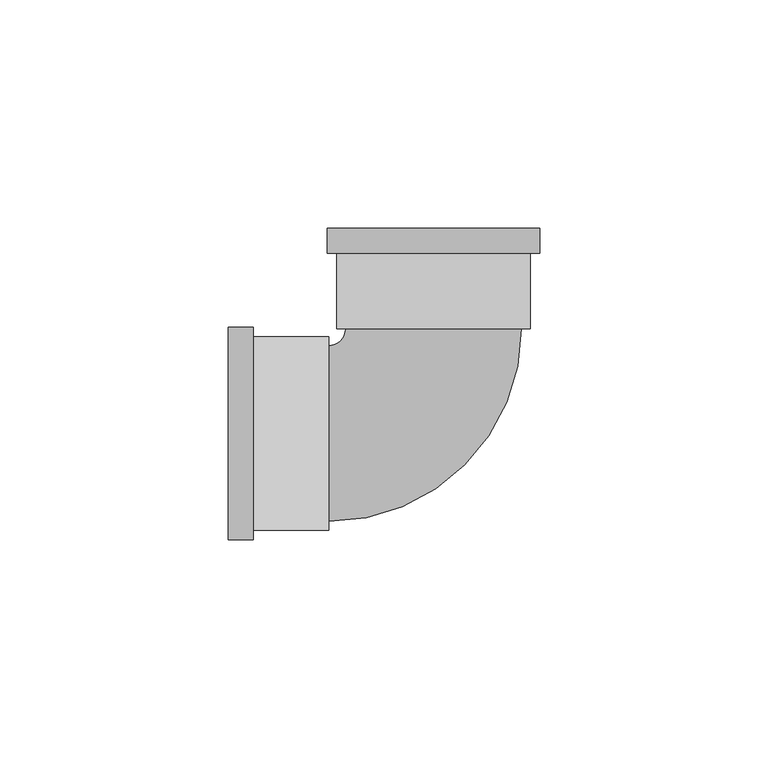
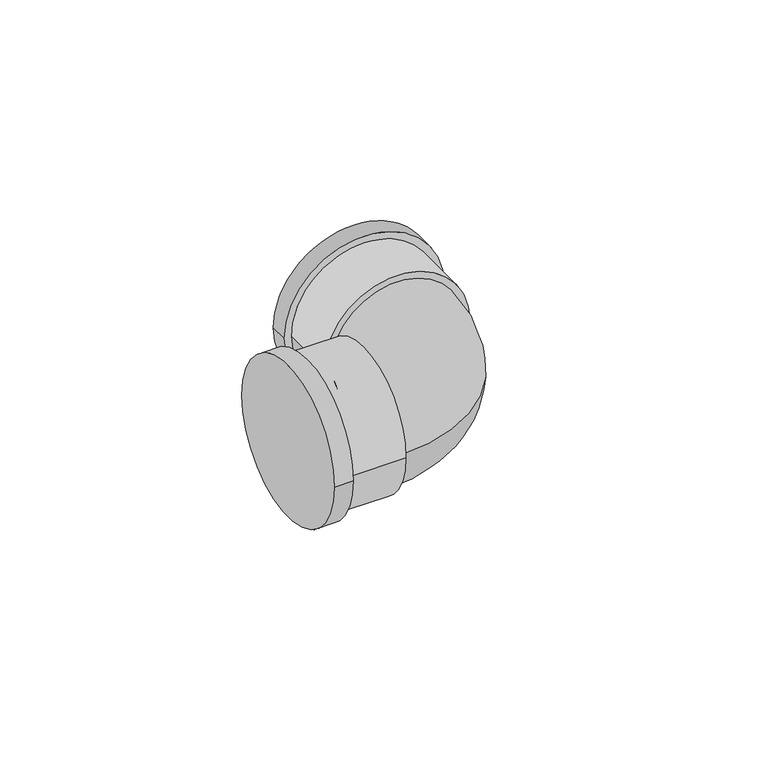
"""IFC4 building model written with IfcOpenShell, lengths in millimetres: pipe fitting geometry, Cotovelo - PVC - CW : Padrão."""

from ifc_helpers import new_model, si_unit, point, frame, origin, place, context, project, spatial, circle_curve, ellipse_curve, trimmed, source, transform, mapped, element, save
from ifc_brep_helpers import plane_surface, cylinder_surface, revolved_surface, advanced_brep


def pipe_fitting_b009a99b(model_context):
    return source(origin(), model_context, "Body", "AdvancedBrep", [
        advanced_brep(
        [(-45.0002774, -23.2925, 0.0), (-45.0002774, 23.2925, 0.0), (-39.5002774, -23.2925, 0.0), (-39.5002774, 23.2925, 0.0), (-39.5002774, -21.175, 0.0), (-39.5002774, 21.175, 0.0), (-23.0002774, 21.175, 0.0), (-23.0002774, -21.175, 0.0), (-23.0002774, -19.25, 0.0), (-23.0002774, 19.25, 0.0), (-19.2502774, 23.0000452, 0.0), (19.2497226, 23.0005096, 0.0), (21.1747226, 23.0005328, 0.0), (-21.1752774, 23.000022, 0.0), (-23.2930427, 44.9999965, 0.0), (23.2919573, 45.0005583, 0.0), (21.1745236, 39.5005328, 0.0), (-21.1754764, 39.500022, 0.0), (-23.2929764, 39.4999965, 0.0), (23.2920236, 39.5005583, 0.0)],
        [
            (0, 1, circle_curve(frame((-45.0002774, 0.0, 0.0), z_axis=(-1.0, 0.0, 0.0), x_axis=(0.0, 1.0, 0.0)), 23.2925)),
            (1, 0, circle_curve(frame((-45.0002774, 0.0, 0.0), z_axis=(-1.0, 0.0, 0.0), x_axis=(0.0, 1.0, 0.0)), 23.2925)),
            (2, 3, circle_curve(frame((-39.5002774, 0.0, 0.0), z_axis=(1.0, 0.0, 0.0), x_axis=(0.0, 1.0, 0.0)), 23.2925)),
            (3, 2, circle_curve(frame((-39.5002774, 0.0, 0.0), z_axis=(1.0, 0.0, 0.0), x_axis=(0.0, 1.0, 0.0)), 23.2925)),
            (4, 5, circle_curve(frame((-39.5002774, 0.0, 0.0), z_axis=(-1.0, 0.0, 0.0), x_axis=(0.0, -1.0, 0.0)), 21.175)),
            (5, 4, circle_curve(frame((-39.5002774, 0.0, 0.0), z_axis=(-1.0, 0.0, 0.0), x_axis=(0.0, -1.0, 0.0)), 21.175)),
            (0, 2),
            (3, 1),
            (6, 7, circle_curve(frame((-23.0002774, 0.0, 0.0), z_axis=(1.0, 0.0, 0.0), x_axis=(0.0, -1.0, 0.0)), 21.175)),
            (7, 6, circle_curve(frame((-23.0002774, 0.0, 0.0), z_axis=(1.0, 0.0, 0.0), x_axis=(0.0, -1.0, 0.0)), 21.175)),
            (8, 9, circle_curve(frame((-23.0002774, 0.0, 0.0), z_axis=(-1.0, 0.0, 0.0), x_axis=(0.0, 1.0, 0.0)), 19.25)),
            (9, 8, circle_curve(frame((-23.0002774, 0.0, 0.0), z_axis=(-1.0, 0.0, 0.0), x_axis=(0.0, 1.0, 0.0)), 19.25)),
            (6, 5),
            (4, 7),
            (10, 9, circle_curve(frame((-23.0002774, 23.0, 0.0), z_axis=(0.0, 0.0, -1.0), x_axis=(0.0, -1.0, 0.0)), 3.75)),
            (8, 11, circle_curve(frame((-23.0002774, 23.0, 0.0), z_axis=(0.0, 0.0, 1.0), x_axis=(0.0, -1.0, 0.0)), 42.25)),
            (11, 10, circle_curve(frame((-0.0002774, 23.0002774, 0.0), z_axis=(1.2060733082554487e-05, -0.9999999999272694, 0.0), x_axis=(-0.9999999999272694, -1.2060733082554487e-05, 0.0)), 19.25)),
            (10, 11, circle_curve(frame((-0.0002774, 23.0002774, 0.0), z_axis=(1.2060733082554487e-05, -0.9999999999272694, 0.0), x_axis=(-0.9999999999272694, -1.2060733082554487e-05, 0.0)), 19.25)),
            (12, 13, circle_curve(frame((-0.0002774, 23.0002774, 0.0), z_axis=(1.2060733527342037e-05, -0.9999999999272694, 0.0), x_axis=(-0.9999999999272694, -1.2060733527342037e-05, 0.0)), 21.175)),
            (13, 12, circle_curve(frame((-0.0002774, 23.0002774, 0.0), z_axis=(1.2060733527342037e-05, -0.9999999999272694, 0.0), x_axis=(-0.9999999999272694, -1.2060733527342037e-05, 0.0)), 21.175)),
            (14, 15, circle_curve(frame((-0.0005427, 45.0002774, 0.0), z_axis=(-1.2060733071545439e-05, 0.9999999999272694, 0.0), x_axis=(0.9999999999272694, 1.2060733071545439e-05, 0.0)), 23.2925)),
            (15, 14, circle_curve(frame((-0.0005427, 45.0002774, 0.0), z_axis=(-1.2060733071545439e-05, 0.9999999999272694, 0.0), x_axis=(0.9999999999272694, 1.2060733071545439e-05, 0.0)), 23.2925)),
            (12, 16),
            (16, 17, circle_curve(frame((-0.0004764, 39.5002774, 0.0), z_axis=(1.2060733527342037e-05, -0.9999999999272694, 0.0), x_axis=(-0.9999999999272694, -1.2060733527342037e-05, 0.0)), 21.175)),
            (17, 13),
            (17, 16, circle_curve(frame((-0.0004764, 39.5002774, 0.0), z_axis=(1.2060733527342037e-05, -0.9999999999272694, 0.0), x_axis=(-0.9999999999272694, -1.2060733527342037e-05, 0.0)), 21.175)),
            (18, 19, circle_curve(frame((-0.0004764, 39.5002774, 0.0), z_axis=(1.2060733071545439e-05, -0.9999999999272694, 0.0), x_axis=(0.9999999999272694, 1.2060733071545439e-05, 0.0)), 23.2925)),
            (19, 18, circle_curve(frame((-0.0004764, 39.5002774, 0.0), z_axis=(1.2060733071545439e-05, -0.9999999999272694, 0.0), x_axis=(0.9999999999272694, 1.2060733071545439e-05, 0.0)), 23.2925)),
            (14, 18),
            (19, 15),
        ],
        [
            plane_surface(frame((-45.0002774, 0.0, 0.0), z_axis=(-1.0, 0.0, 0.0), x_axis=(0.0, 0.0, 1.0))),
            plane_surface(frame((-39.5002774, 0.0, 0.0), z_axis=(1.0, 0.0, 0.0), x_axis=(0.0, 0.0, 1.0))),
            cylinder_surface(frame((-45.0002774, 0.0, 0.0), z_axis=(-1.0, 0.0, 0.0), x_axis=(0.0, 1.0, 0.0)), 23.2925),
            plane_surface(frame((-23.0002774, 0.0, 0.0), z_axis=(1.0, 0.0, 0.0), x_axis=(0.0, 0.0, 1.0))),
            cylinder_surface(frame((-23.0002774, 0.0, 0.0), z_axis=(1.0, 0.0, 0.0), x_axis=(0.0, -1.0, 0.0)), 21.175),
            revolved_surface(trimmed(ellipse_curve(frame((-23.0002774, 0.0, 0.0), z_axis=(-1.0, 0.0, 0.0), x_axis=(0.0, 1.0, 0.0)), 19.25, 19.25), [point((-23.0002774, -19.25, 0.0))], [point((-23.0002774, 19.25, 0.0))], True, "CARTESIAN"), (-23.0002774, 23.0, 0.0), (0.0, 0.0, 1.0)),
            revolved_surface(trimmed(ellipse_curve(frame((-23.0002774, 0.0, 0.0), z_axis=(-1.0, 0.0, 0.0), x_axis=(0.0, 1.0, 0.0)), 19.25, 19.25), [point((-23.0002774, 19.25, 0.0))], [point((-23.0002774, -19.25, 0.0))], True, "CARTESIAN"), (-23.0002774, 23.0, 0.0), (0.0, 0.0, 1.0)),
            plane_surface(frame((-0.0002774, 23.0002774, 0.0), z_axis=(1.2060733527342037e-05, -0.9999999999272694, 0.0), x_axis=(0.0, 0.0, 1.0))),
            plane_surface(frame((-0.0005427, 45.0002774, 0.0), z_axis=(-1.2060733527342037e-05, 0.9999999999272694, 0.0), x_axis=(0.0, 0.0, 1.0))),
            cylinder_surface(frame((-0.0002774, 23.0002774, 0.0), z_axis=(1.2060733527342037e-05, -0.9999999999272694, 0.0), x_axis=(-0.9999999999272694, -1.2060733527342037e-05, 0.0)), 21.175),
            plane_surface(frame((-0.0004764, 39.5002774, 0.0), z_axis=(1.2060733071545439e-05, -0.9999999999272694, 0.0), x_axis=(0.0, 0.0, 1.0))),
            cylinder_surface(frame((-0.0005427, 45.0002774, 0.0), z_axis=(-1.2060733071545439e-05, 0.9999999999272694, 0.0), x_axis=(0.9999999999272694, 1.2060733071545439e-05, 0.0)), 23.2925),
        ],
        [
            (0, [[1, 2]]),
            (1, [[3, 4], [5, 6]]),
            (2, [[-1, 7, -4, 8]]),
            (2, [[-2, -8, -3, -7]]),
            (3, [[9, 10], [11, 12]]),
            (4, [[-9, 13, -5, 14]]),
            (4, [[-10, -14, -6, -13]]),
            (5, [[15, -11, 16, 17]]),
            (6, [[-15, 18, -16, -12]]),
            (7, [[19, 20], [-17, -18]]),
            (8, [[21, 22]]),
            (9, [[-19, 23, 24, 25]]),
            (9, [[-20, -25, 26, -23]]),
            (10, [[27, 28], [-24, -26]]),
            (11, [[-21, 29, -28, 30]]),
            (11, [[-22, -30, -27, -29]]),
        ],
    ),
    ])


if __name__ == "__main__":
    model = new_model("IFC4")
    model_context = context("Model", 3, world=origin())
    ifc_project = project(units=[si_unit("LENGTHUNIT", "METRE", prefix="MILLI")], contexts=[model_context])
    site = spatial("IfcSite", under=ifc_project)
    building = spatial("IfcBuilding", under=site)
    placement = place(None, origin())
    pipe_fitting_shape = pipe_fitting_b009a99b(model_context)
    element("IfcPipeFitting", 1, ObjectType="Cotovelo - PVC - CW : Padrão", at=placement, inside=building, context=model_context, shape_type="MappedRepresentation", body=[
        mapped(pipe_fitting_shape, transform((0.0, 0.0, 0.0), x_axis=(1.0, 0.0, 0.0), y_axis=(0.0, 1.0, 0.0), z_axis=(0.0, 0.0, 1.0))),
    ])
    save(model, "model.ifc")
